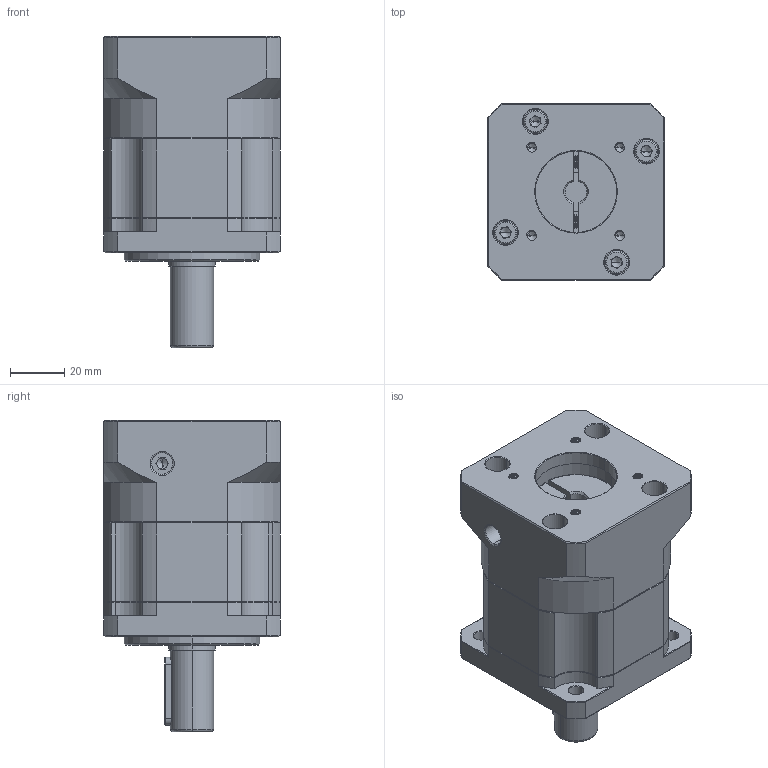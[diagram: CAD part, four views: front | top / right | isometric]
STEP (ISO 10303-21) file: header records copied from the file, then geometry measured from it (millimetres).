
FILE_DESCRIPTION (( 'STEP AP214' ), '1' );
FILE_NAME ('ZB060-D16-L1-P2-8-30-46-M4.step', '2023-08-16T07:05:26', ( '' ), ( '' ), 'SwSTEP 2.0', 'SolidWorks 2016', '' );
FILE_SCHEMA (( 'AUTOMOTIVE_DESIGN' ));
Length unit declared in the file: millimetre
Products named in the file (1): ZB060-D16-L1-P2-8-30-46-M4
Bounding box: 65 x 65 x 115 mm (x, y, z)
Volume: 277720.4 mm3; surface area: 55112.4 mm2
Topology: 6 solids, 6 shells, 2154 faces, 5800 edges, 3734 vertices
Faces by surface type: plane 1059, bspline 397, cylinder 381, cone 283, torus 34
Entity records: 114832 total; most frequent: CARTESIAN_POINT 40217, ORIENTED_EDGE 11540, DIRECTION 9090, EDGE_CURVE 5770, VERTEX_POINT 3734, LINE 3636, VECTOR 3636, AXIS2_PLACEMENT_3D 2727
